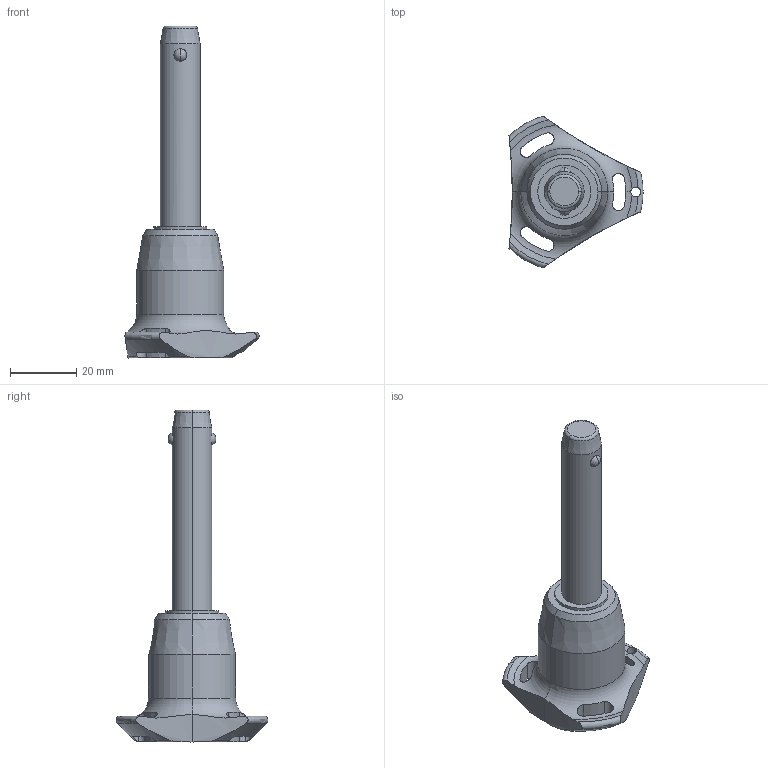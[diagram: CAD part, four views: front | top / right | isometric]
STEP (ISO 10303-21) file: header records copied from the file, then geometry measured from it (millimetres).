
FILE_DESCRIPTION (( 'STEP AP203' ), '1' );
FILE_NAME ('QR1724.M12-050-S.step', '2025-11-12T12:58:30', ( '' ), ( '' ), 'SwSTEP 2.0', 'SolidWorks 2019', '' );
FILE_SCHEMA (( 'CONFIG_CONTROL_DESIGN' ));
Length unit declared in the file: millimetre
Products named in the file (1): QR1724.M12-050-S
Bounding box: 40.5 x 45.88 x 100.3 mm (x, y, z)
Volume: 28790 mm3; surface area: 8222.6 mm2
Topology: 1 solids, 1 shells, 65 faces, 178 edges, 113 vertices
Faces by surface type: cylinder 30, cone 14, torus 11, sphere 6, plane 4
Entity records: 2862 total; most frequent: CARTESIAN_POINT 1173, ORIENTED_EDGE 356, DIRECTION 329, EDGE_CURVE 178, AXIS2_PLACEMENT_3D 147, VERTEX_POINT 113, CIRCLE 81, EDGE_LOOP 71
